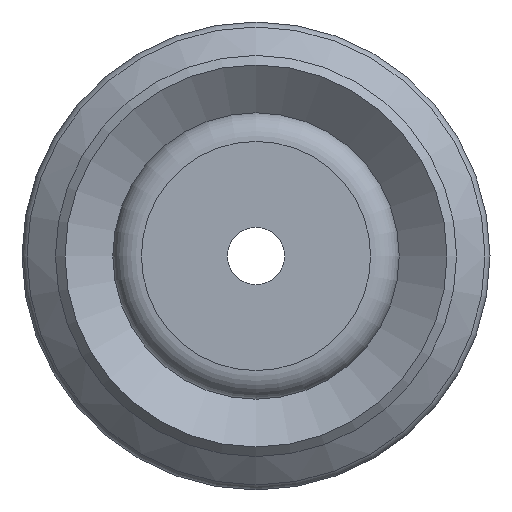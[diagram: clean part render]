
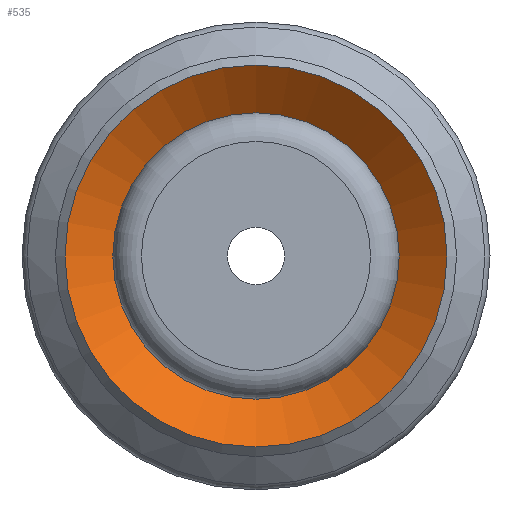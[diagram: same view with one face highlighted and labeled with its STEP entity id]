
A CAD part, front view. The second image highlights one B-rep face of the part: STEP entity #535.
In plain terms, the highlighted conical face has half-angle 52 degrees and reference radius 3 mm.
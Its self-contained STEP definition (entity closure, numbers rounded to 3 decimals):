
#535=ADVANCED_FACE('',(#757,#758),#759,.F.);
#757=FACE_BOUND('',#1030,.T.);
#758=FACE_OUTER_BOUND('',#1031,.T.);
#759=CONICAL_SURFACE('',#1032,3.0,0.908);
#1030=EDGE_LOOP('',(#1639));
#1031=EDGE_LOOP('',(#1640));
#1032=AXIS2_PLACEMENT_3D('',#1641,#1642,#1643);
#1639=ORIENTED_EDGE('',*,*,#1952,.F.);
#1640=ORIENTED_EDGE('',*,*,#1949,.T.);
#1641=CARTESIAN_POINT('',(0.0,7.741,0.));
#1642=DIRECTION('',(-0.0,-1.0,0.));
#1643=DIRECTION('',(0.0,0.,-1.0));
#1949=EDGE_CURVE('',#2227,#2227,#2228,.T.);
#1952=EDGE_CURVE('',#2233,#2233,#2234,.T.);
#2227=VERTEX_POINT('',#2841);
#2228=CIRCLE('',#2842,4.0);
#2233=VERTEX_POINT('',#2847);
#2234=CIRCLE('',#2848,3.0);
#2841=CARTESIAN_POINT('',(0.0,6.96,-4.0));
#2842=AXIS2_PLACEMENT_3D('',#3145,#3146,#3147);
#2847=CARTESIAN_POINT('',(0.0,7.741,-3.0));
#2848=AXIS2_PLACEMENT_3D('',#3154,#3155,#3156);
#3145=CARTESIAN_POINT('',(0.0,6.96,0.0));
#3146=DIRECTION('',(0.0,-1.0,0.));
#3147=DIRECTION('',(0.0,0.,-1.0));
#3154=CARTESIAN_POINT('',(0.0,7.741,0.));
#3155=DIRECTION('',(0.0,-1.0,0.));
#3156=DIRECTION('',(0.0,0.,-1.0));
